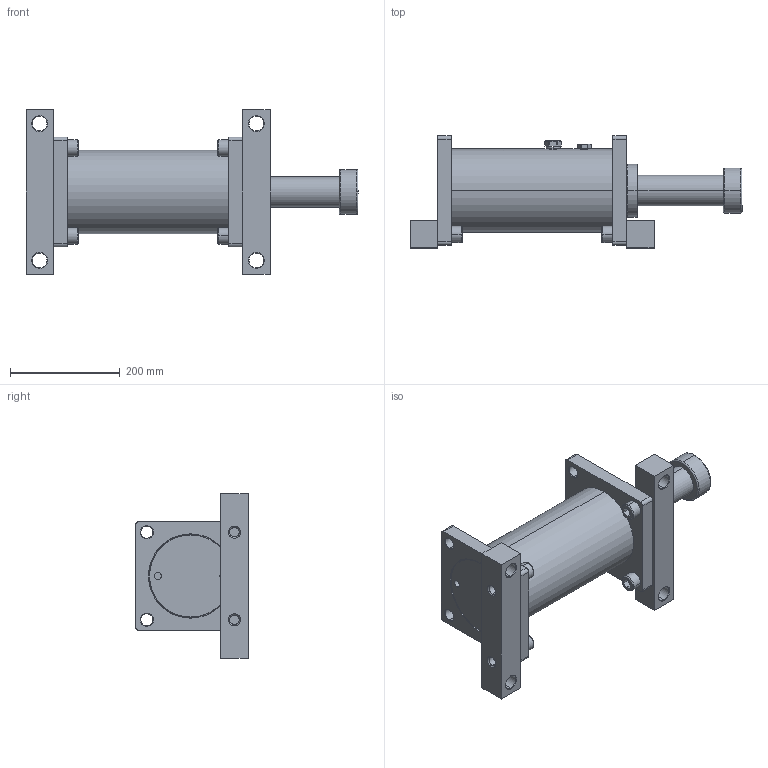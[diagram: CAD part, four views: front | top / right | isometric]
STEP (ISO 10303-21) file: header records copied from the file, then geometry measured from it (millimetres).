
FILE_DESCRIPTION (( 'STEP AP214' ), '1' );
FILE_NAME ('ED3.5X6.STEP', '2019-01-29T00:56:18', ( 'user' ), ( 'Microsoft' ), 'SwSTEP 2.0', 'SolidWorks 2016', '' );
FILE_SCHEMA (( 'AUTOMOTIVE_DESIGN' ));
Length unit declared in the file: inch
Products named in the file (1): ED3.5X6
Bounding box: 606.4 x 205 x 300 mm (x, y, z)
Surface area: 572562 mm2 (no closed solid volume)
Topology: 0 solids, 22 shells, 265 faces, 718 edges, 482 vertices
Faces by surface type: plane 91, cylinder 88, cone 54, torus 32
Entity records: 13396 total; most frequent: CARTESIAN_POINT 6564, DIRECTION 1498, ORIENTED_EDGE 1288, EDGE_CURVE 718, AXIS2_PLACEMENT_3D 596, VERTEX_POINT 482, CIRCLE 330, EDGE_LOOP 322
